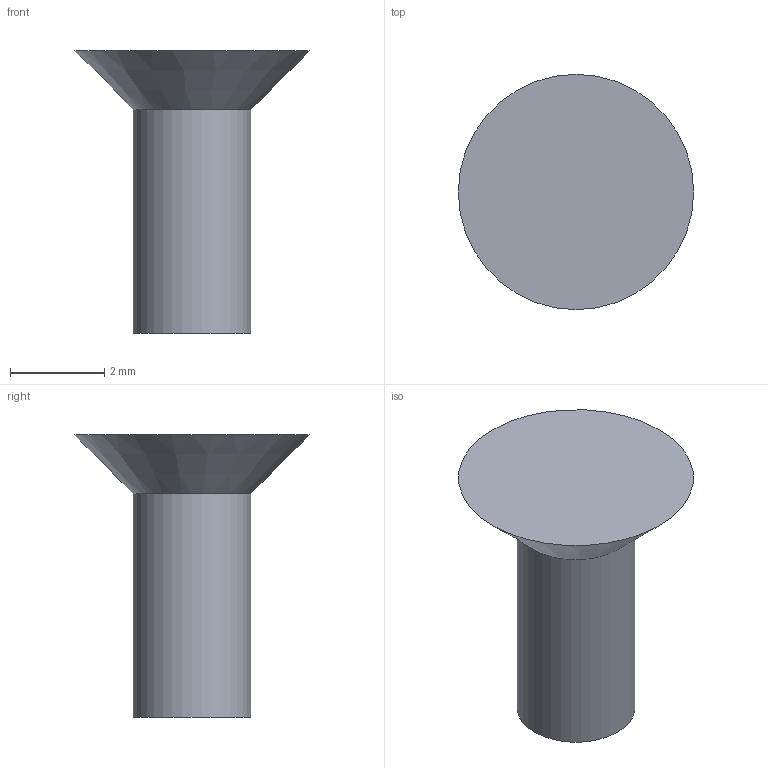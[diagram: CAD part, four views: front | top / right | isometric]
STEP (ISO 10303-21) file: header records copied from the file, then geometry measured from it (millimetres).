
FILE_DESCRIPTION(('Open CASCADE Model'),'2;1');
FILE_NAME('Open CASCADE Shape Model','2026-11-23T18:10:07',('Author'),( 'Open CASCADE'),'Open CASCADE STEP processor 8.0','build123d', 'Unknown');
FILE_SCHEMA(('AUTOMOTIVE_DESIGN { 1 0 10303 214 1 1 1 1 }'));
Length unit declared in the file: millimetre
Products named in the file (2): =>[0:1:1:2]; SOLID
Assembly tree (1 placements, depth 2):
  =>[0:1:1:2]
    SOLID
Bounding box: 5 x 5 x 6 mm (x, y, z)
Volume: 37.6 mm3; surface area: 82.7 mm2
Topology: 1 solids, 1 shells, 4 faces, 5 edges, 3 vertices
Faces by surface type: plane 2, cone 1, cylinder 1
Full cylindrical faces by diameter (mm): 2.5 x1
Entity records: 176 total; most frequent: DIRECTION 29, CARTESIAN_POINT 25, ORIENTED_EDGE 10, PCURVE 10, DEFINITIONAL_REPRESENTATION 10, AXIS2_PLACEMENT_3D 9, LINE 9, VECTOR 9
